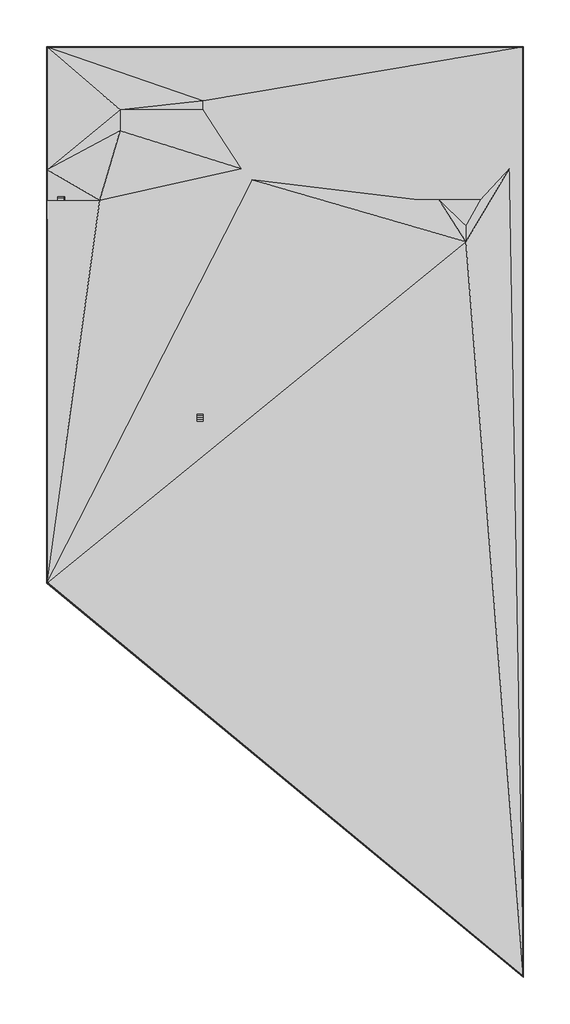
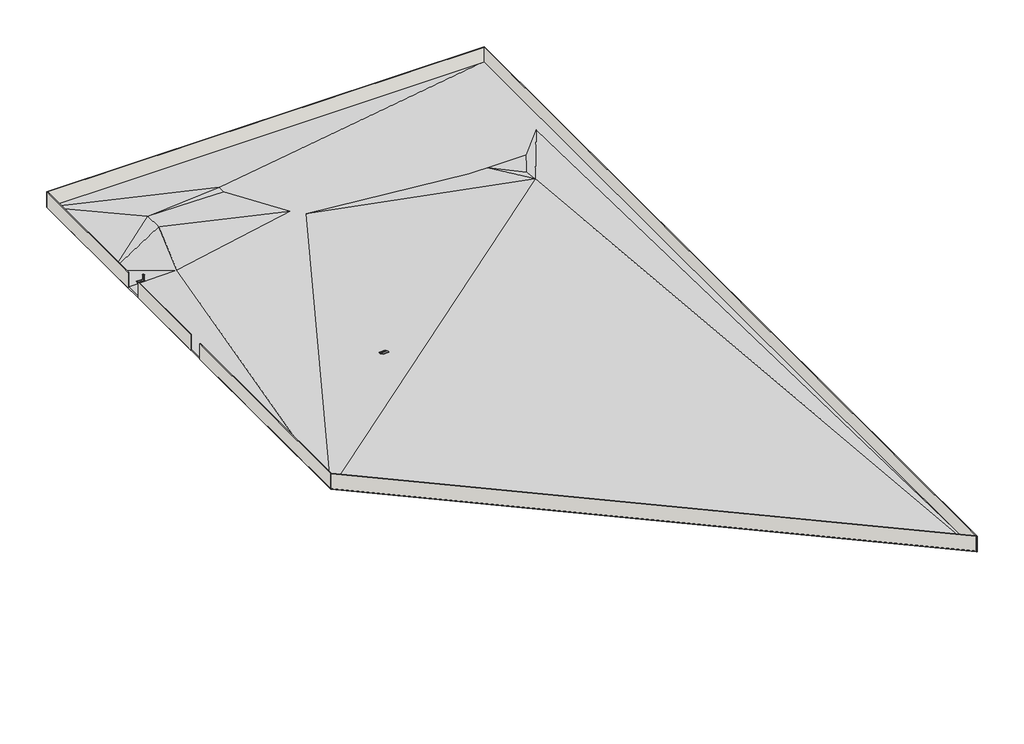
# One storey: 6 walls, 2 stair flights, 1 proxy, 1 railing.
"""IFC4 building model written with IfcOpenShell, lengths in millimetres."""

from ifc_helpers import new_model, si_unit, frame, origin, place, context, project, spatial, polyline, circle_curve, ellipse_curve, outline, extrude, faceted_brep, triangles, element, save
from ifc_brep_helpers import plane_surface, cylinder_surface, advanced_brep

model = new_model("IFC4")

# Units and contexts
model_context = context("Model", 3, world=origin())
ifc_project = project(units=[si_unit("LENGTHUNIT", "METRE", prefix="MILLI")], contexts=[model_context])

# Site, building, storey
site = spatial("IfcSite", under=ifc_project)
building = spatial("IfcBuilding", under=site)
storey = spatial("IfcBuildingStorey", under=building, Name="Nível 3", Elevation=-205.0)

# Proxy
placement = place(None, origin())
element("IfcBuildingElementProxy", 1, Name="Building Element Proxy", at=placement, inside=storey, context=model_context, shape_type="Tessellation", body=[
    triangles([(-28148.4725464, 48450.3077637, -600.0000046), (52048.748584, 48450.3077637, -400.0000031), (52048.748584, -107873.2666992, -400.0000031), (-28148.4725464, -41620.3386108, -400.0000031), (-19198.5269806, 22650.3081482, -200.0000015), (-27998.4723999, 22650.3081482, -400.0000031), (-27998.525885, 27775.302301, -300.0000023), (-15773.5267365, 37900.302887, -200.0000015), (-15773.7209106, 34350.2753906, -100.0000008), (44813.7994995, 22763.0361511, -400.0000031), (41301.5301636, 26275.3078125, -400.0000031), (37801.5275208, 22775.3098206, -400.0000031), (34301.5295288, 22775.3098206, -400.0000031), (30940.7090881, 26136.1279358, -400.0000031), (6440.7091919, 26136.1279358, -400.0000031), (4601.466806, 27975.3086975, -400.0000031), (49646.9556519, 27975.3086975, -400.0000031), (49646.9556519, 39375.3082031, -400.0000031), (-1814.1494408, 39375.3082031, -400.0000031), (-1814.1494408, 37900.302887, -400.0000031), (42376.5296631, 18386.128894, -200.0000015), (42376.4040894, 15716.1279144, 100.0000008)], [[1, 6, 7], [6, 1, 4], [7, 5, 9], [5, 6, 4], [15, 5, 4], [5, 7, 6], [4, 22, 15], [16, 5, 15], [7, 8, 1], [8, 7, 9], [8, 9, 20], [1, 8, 19], [19, 20, 16], [20, 19, 8], [16, 20, 9], [14, 19, 16], [9, 5, 16], [1, 19, 2], [16, 15, 14], [12, 13, 22], [13, 15, 22], [22, 10, 21], [17, 10, 22], [17, 22, 3], [12, 22, 21], [14, 15, 13], [12, 21, 10], [14, 12, 11], [12, 14, 13], [12, 10, 11], [14, 11, 18], [17, 2, 18], [2, 17, 3], [18, 2, 14], [17, 18, 11], [10, 17, 11], [14, 2, 19], [4, 3, 22]], closed=False),
])

# Railing
element("IfcRailing", 2, ObjectType="900 mm Tubulação", at=placement, inside=storey, context=model_context, shape_type="AdvancedBrep", body=[
    advanced_brep(
    [(-25093.1268603, 23266.1862478, 611.1815174), (-25123.1268603, 23266.1862478, 611.1815174), (-25153.1268603, 23266.1862478, 611.1815174), (-25133.1268603, 23266.1862478, 633.3333333), (-25113.1268603, 23266.1862478, 633.3333333), (-25093.1268603, 22706.1862478, 877.8481841), (-25113.1268603, 22706.1862478, 900.0), (-25133.1268603, 22706.1862478, 900.0), (-25153.1268603, 22706.1862478, 877.8481841), (-25123.1268603, 22706.1862478, 877.8481841)],
    [
        (0, 1),
        (1, 2),
        (2, 3, ellipse_curve(frame((-25133.1268603, 23266.1862478, 611.1815174), z_axis=(0.0, 1.0, 0.0), x_axis=(0.0, 0.0, -0.9999999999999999)), 22.1518159, 20.0)),
        (3, 4),
        (4, 0, ellipse_curve(frame((-25113.1268603, 23266.1862478, 611.1815174), z_axis=(0.0, 1.0, 0.0), x_axis=(0.0, 0.0, -0.9999999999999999)), 22.1518159, 20.0)),
        (5, 6, ellipse_curve(frame((-25113.1268603, 22706.1862478, 877.8481841), z_axis=(0.0, -1.0, 0.0), x_axis=(0.0, 0.0, -0.9999999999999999)), 22.1518159, 20.0)),
        (6, 7),
        (7, 8, ellipse_curve(frame((-25133.1268603, 22706.1862478, 877.8481841), z_axis=(0.0, -1.0, 0.0), x_axis=(0.0, 0.0, -0.9999999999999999)), 22.1518159, 20.0)),
        (8, 9),
        (9, 5),
        (0, 5),
        (9, 1),
        (8, 2),
        (7, 3),
        (6, 4),
    ],
    [
        plane_surface(frame((-25123.1268603, 23266.1862478, 633.3333333), z_axis=(0.0, 1.0, 0.0), x_axis=(0.0, 0.0, -1.0))),
        plane_surface(frame((-25123.1268603, 22706.1862478, 900.0), z_axis=(0.0, -1.0, 0.0), x_axis=(0.0, 0.0, -1.0))),
        plane_surface(frame((-25093.1268603, 23266.1862478, 611.1815174), z_axis=(0.0, -0.42993358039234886, -0.9028605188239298), x_axis=(0.0, -0.9028605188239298, 0.42993358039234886))),
        plane_surface(frame((-25123.1268603, 23266.1862478, 611.1815174), z_axis=(0.0, -0.42993358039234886, -0.9028605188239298), x_axis=(0.0, -0.9028605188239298, 0.42993358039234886))),
        cylinder_surface(frame((-25133.1268603, 23257.5875762, 615.276123), z_axis=(0.0, 0.9028605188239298, -0.4299335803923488), x_axis=(1.0, 0.0, 0.0)), 20.0),
        plane_surface(frame((-25133.1268603, 23266.1862478, 633.3333333), z_axis=(0.0, 0.42993358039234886, 0.9028605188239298), x_axis=(0.0, -0.9028605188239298, 0.42993358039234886))),
        cylinder_surface(frame((-25113.1268603, 23257.5875762, 615.276123), z_axis=(0.0, 0.9028605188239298, -0.4299335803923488), x_axis=(1.0, 0.0, 0.0)), 20.0),
    ],
    [
        (0, [[1, 2, 3, 4, 5]]),
        (1, [[6, 7, 8, 9, 10]]),
        (2, [[-1, 11, -10, 12]]),
        (3, [[-2, -12, -9, 13]]),
        (4, [[-3, -13, -8, 14]]),
        (5, [[-4, -14, -7, 15]]),
        (6, [[-5, -15, -6, -11]]),
    ],
),
    advanced_brep(
    [(-25108.1268603, 23266.1862478, 616.7194714), (-25138.1268603, 23266.1862478, 616.7194714), (-25108.1268603, 22706.1862478, 883.3861381), (-25138.1268603, 22706.1862478, 883.3861381)],
    [
        (0, 1, ellipse_curve(frame((-25123.1268603, 23266.1862478, 616.7194714), z_axis=(0.0, 1.0, 0.0), x_axis=(0.0, 0.0, -0.9999999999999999)), 16.6138619, 15.0)),
        (1, 0, ellipse_curve(frame((-25123.1268603, 23266.1862478, 616.7194714), z_axis=(0.0, 1.0, 0.0), x_axis=(0.0, 0.0, -0.9999999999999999)), 16.6138619, 15.0)),
        (2, 3, ellipse_curve(frame((-25123.1268603, 22706.1862478, 883.3861381), z_axis=(0.0, -1.0, 0.0), x_axis=(0.0, 0.0, -0.9999999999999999)), 16.6138619, 15.0)),
        (3, 2, ellipse_curve(frame((-25123.1268603, 22706.1862478, 883.3861381), z_axis=(0.0, -1.0, 0.0), x_axis=(0.0, 0.0, -0.9999999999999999)), 16.6138619, 15.0)),
        (0, 2),
        (3, 1),
    ],
    [
        plane_surface(frame((-25123.1268603, 23266.1862478, 633.3333333), z_axis=(0.0, 1.0, 0.0), x_axis=(0.0, 0.0, -1.0))),
        plane_surface(frame((-25123.1268603, 22706.1862478, 900.0), z_axis=(0.0, -1.0, 0.0), x_axis=(0.0, 0.0, -1.0))),
        cylinder_surface(frame((-25123.1268603, 23259.7372441, 619.7904256), z_axis=(0.0, 0.9028605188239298, -0.4299335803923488), x_axis=(-1.0, 0.0, 0.0)), 15.0),
    ],
    [
        (0, [[1, 2]]),
        (1, [[3, 4]]),
        (2, [[-1, 5, -4, 6]]),
        (2, [[-2, -6, -3, -5]]),
    ],
),
    advanced_brep(
    [(-25108.1268603, 23266.1862478, 166.7194714), (-25138.1268603, 23266.1862478, 166.7194714), (-25108.1268603, 22706.1862478, 433.3861381), (-25138.1268603, 22706.1862478, 433.3861381)],
    [
        (0, 1, ellipse_curve(frame((-25123.1268603, 23266.1862478, 166.7194714), z_axis=(0.0, 1.0, 0.0), x_axis=(0.0, 0.0, -0.9999999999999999)), 16.6138619, 15.0)),
        (1, 0, ellipse_curve(frame((-25123.1268603, 23266.1862478, 166.7194714), z_axis=(0.0, 1.0, 0.0), x_axis=(0.0, 0.0, -0.9999999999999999)), 16.6138619, 15.0)),
        (2, 3, ellipse_curve(frame((-25123.1268603, 22706.1862478, 433.3861381), z_axis=(0.0, -1.0, 0.0), x_axis=(0.0, 0.0, -0.9999999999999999)), 16.6138619, 15.0)),
        (3, 2, ellipse_curve(frame((-25123.1268603, 22706.1862478, 433.3861381), z_axis=(0.0, -1.0, 0.0), x_axis=(0.0, 0.0, -0.9999999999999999)), 16.6138619, 15.0)),
        (0, 2),
        (3, 1),
    ],
    [
        plane_surface(frame((-25123.1268603, 23266.1862478, 183.3333333), z_axis=(0.0, 1.0, 0.0), x_axis=(0.0, 0.0, -1.0))),
        plane_surface(frame((-25123.1268603, 22706.1862478, 450.0), z_axis=(0.0, -1.0, 0.0), x_axis=(0.0, 0.0, -1.0))),
        cylinder_surface(frame((-25123.1268603, 23259.7372441, 169.7904256), z_axis=(0.0, 0.9028605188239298, -0.4299335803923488), x_axis=(-1.0, 0.0, 0.0)), 15.0),
    ],
    [
        (0, [[1, 2]]),
        (1, [[3, 4]]),
        (2, [[-1, 5, -4, 6]]),
        (2, [[-2, -6, -3, -5]]),
    ],
),
    advanced_brep(
    [(-25135.6268603, 22718.6862478, 871.8958031), (-25135.6268603, 22718.6862478, -133.3333333), (-25110.6268603, 22718.6862478, -133.3333333), (-25110.6268603, 22718.6862478, 871.8958031)],
    [
        (0, 1),
        (1, 2, circle_curve(frame((-25123.1268603, 22718.6862478, -133.3333333), z_axis=(0.0, 0.0, 1.0), x_axis=(1.0, 0.0, 0.0)), 12.5)),
        (2, 3),
        (3, 0, ellipse_curve(frame((-25123.1268603, 22718.6862478, 871.8958031), z_axis=(0.0, -0.42993358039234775, -0.9028605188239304), x_axis=(0.0, -0.9028605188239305, 0.42993358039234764)), 13.8448849, 12.5)),
        (0, 3, ellipse_curve(frame((-25123.1268603, 22718.6862478, 871.8958031), z_axis=(0.0, -0.42993358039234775, -0.9028605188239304), x_axis=(0.0, -0.9028605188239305, 0.42993358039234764)), 13.8448849, 12.5)),
        (2, 1, circle_curve(frame((-25123.1268603, 22718.6862478, -133.3333333), z_axis=(0.0, 0.0, 1.0), x_axis=(1.0, 0.0, 0.0)), 12.5)),
    ],
    [
        cylinder_surface(frame((-25123.1268603, 22718.6862478, -233.3333333), z_axis=(0.0, 0.0, 1.0), x_axis=(1.0, 0.0, 0.0)), 12.5),
        plane_surface(frame((-25098.1268603, 22693.6862478, 883.800565), z_axis=(0.0, 0.42993358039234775, 0.9028605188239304), x_axis=(-1.0, 0.0, 0.0))),
        plane_surface(frame((-25098.1268603, 22743.6862478, -133.3333333), z_axis=(0.0, 0.0, -1.0), x_axis=(-1.0, 0.0, 0.0))),
    ],
    [
        (0, [[1, 2, 3, 4]]),
        (0, [[-1, 5, -3, 6]]),
        (1, [[-4, -5]]),
        (2, [[-2, -6]]),
    ],
),
    advanced_brep(
    [(-25135.6268603, 23253.6862478, 617.1338984), (-25135.6268603, 23253.6862478, -266.6666667), (-25110.6268603, 23253.6862478, -266.6666667), (-25110.6268603, 23253.6862478, 617.1338984)],
    [
        (0, 1),
        (1, 2, circle_curve(frame((-25123.1268603, 23253.6862478, -266.6666667), z_axis=(0.0, 0.0, 1.0), x_axis=(1.0, 0.0, 0.0)), 12.5)),
        (2, 3),
        (3, 0, ellipse_curve(frame((-25123.1268603, 23253.6862478, 617.1338984), z_axis=(0.0, -0.42993358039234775, -0.9028605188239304), x_axis=(0.0, -0.9028605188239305, 0.42993358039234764)), 13.8448849, 12.5)),
        (0, 3, ellipse_curve(frame((-25123.1268603, 23253.6862478, 617.1338984), z_axis=(0.0, -0.42993358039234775, -0.9028605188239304), x_axis=(0.0, -0.9028605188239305, 0.42993358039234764)), 13.8448849, 12.5)),
        (2, 1, circle_curve(frame((-25123.1268603, 23253.6862478, -266.6666667), z_axis=(0.0, 0.0, 1.0), x_axis=(1.0, 0.0, 0.0)), 12.5)),
    ],
    [
        cylinder_surface(frame((-25123.1268603, 23253.6862478, -366.6666667), z_axis=(0.0, 0.0, 1.0), x_axis=(1.0, 0.0, 0.0)), 12.5),
        plane_surface(frame((-25098.1268603, 23228.6862478, 629.0386603), z_axis=(0.0, 0.42993358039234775, 0.9028605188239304), x_axis=(-1.0, 0.0, 0.0))),
        plane_surface(frame((-25098.1268603, 23278.6862478, -266.6666667), z_axis=(0.0, 0.0, -1.0), x_axis=(-1.0, 0.0, 0.0))),
    ],
    [
        (0, [[1, 2, 3, 4]]),
        (0, [[-1, 5, -3, 6]]),
        (1, [[-4, -5]]),
        (2, [[-2, -6]]),
    ],
),
])

# Stair flights
element("IfcStairFlight", 3, ObjectType="Concreto", at=placement, inside=storey, context=model_context, shape_type="Brep", body=[
    faceted_brep([(-1840.0088254, -13548.8137522, -54.0), (-1840.0088254, -13248.8137522, -54.0), (-2840.0088254, -13248.8137522, -54.0), (-2840.0088254, -13548.8137522, -54.0), (-1840.0088254, -13548.8137522, -165.9528671), (-1840.0088254, -13471.2366669, -205.0), (-1840.0088254, -13248.8137522, -205.0), (-2840.0088254, -13248.8137522, -205.0), (-2840.0088254, -13471.2366669, -205.0), (-2840.0088254, -13548.8137522, -165.9528671), (-1840.0088254, -13848.8137522, -14.9528671), (-1840.0088254, -14148.8137522, 136.0471329), (-1840.0088254, -14448.8137522, 287.0471329), (-2840.0088254, -14448.8137522, 287.0471329), (-2840.0088254, -14148.8137522, 136.0471329), (-2840.0088254, -13848.8137522, -14.9528671), (-1840.0088254, -13848.8137522, 97.0), (-1840.0088254, -13548.8137522, 97.0), (-2840.0088254, -13548.8137522, 97.0), (-2840.0088254, -13848.8137522, 97.0), (-1840.0088254, -14148.8137522, 248.0), (-1840.0088254, -13848.8137522, 248.0), (-2840.0088254, -13848.8137522, 248.0), (-2840.0088254, -14148.8137522, 248.0), (-1840.0088254, -14448.8137522, 399.0), (-1840.0088254, -14148.8137522, 399.0), (-2840.0088254, -14148.8137522, 399.0), (-2840.0088254, -14448.8137522, 399.0)], [[[0, 1, 2, 3]], [[1, 0, 4, 5, 6]], [[2, 1, 6, 7]], [[3, 2, 7, 8, 9]], [[7, 6, 5, 8]], [[8, 5, 4, 10, 11, 12, 13, 14, 15, 9]], [[16, 17, 18, 19]], [[17, 16, 10, 4, 0]], [[0, 3, 18, 17]], [[19, 18, 3, 9, 15]], [[20, 21, 22, 23]], [[21, 20, 11, 10, 16]], [[16, 19, 22, 21]], [[23, 22, 19, 15, 14]], [[24, 25, 26, 27]], [[25, 24, 12, 11, 20]], [[20, 23, 26, 25]], [[27, 26, 23, 14, 13]], [[24, 27, 13, 12]]]),
])
element("IfcStairFlight", 4, ObjectType="Concreto", at=placement, inside=storey, context=model_context, shape_type="Brep", body=[
    faceted_brep([(-25098.5268603, 22986.1862478, -266.6666667), (-25098.5268603, 23266.1862478, -266.6666667), (-26298.5268603, 23266.1862478, -266.6666667), (-26298.5268603, 22986.1862478, -266.6666667), (-25098.5268603, 22986.1862478, -377.4257462), (-25098.5268603, 23033.5921808, -400.0), (-25098.5268603, 23266.1862478, -400.0), (-26298.5268603, 23266.1862478, -400.0), (-26298.5268603, 23033.5921808, -400.0), (-26298.5268603, 22986.1862478, -377.4257462), (-25098.5268603, 22706.1862478, -133.3333333), (-25098.5268603, 22986.1862478, -133.3333333), (-26298.5268603, 22986.1862478, -133.3333333), (-26298.5268603, 22706.1862478, -133.3333333), (-25098.5268603, 22706.1862478, -244.0924129), (-26298.5268603, 22706.1862478, -244.0924129)], [[[0, 1, 2, 3]], [[1, 0, 4, 5, 6]], [[2, 1, 6, 7]], [[3, 2, 7, 8, 9]], [[10, 11, 12, 13]], [[11, 10, 14, 4, 0]], [[0, 3, 12, 11]], [[13, 12, 3, 9, 15]], [[10, 13, 15, 14]], [[7, 6, 5, 8]], [[8, 5, 4, 14, 15, 9]]]),
])

# Walls
element("IfcWall", 5, ObjectType="muro, genérico", at=placement, inside=storey, context=model_context, shape_type="Brep", body=[
    faceted_brep([(-28148.5268603, 48356.1797638, -555.0), (-27998.5268603, 48356.1797638, -555.0), (51898.695362, 48356.1797638, -555.0), (52048.695362, 48356.1797638, -555.0), (52048.695362, 48356.1797638, 2445.0), (51898.695362, 48356.1797638, 2445.0), (-27998.5268603, 48356.1797638, 2445.0), (-28148.5268603, 48356.1797638, 2445.0), (-28148.5268603, 48506.1797638, -555.0), (-28148.5268603, 48506.1797638, 2445.0), (52048.695362, 48506.1797638, 2445.0), (52048.695362, 48506.1797638, -555.0)], [[[0, 1, 2, 3, 4, 5, 6, 7]], [[8, 9, 10, 11]], [[3, 2, 1, 0, 8, 11]], [[7, 6, 5, 4, 10, 9]], [[4, 3, 11, 10]], [[0, 7, 9, 8]]]),
])
element("IfcWall", 6, ObjectType="muro, genérico", at=placement, inside=storey, context=model_context, shape_type="Brep", body=[
    faceted_brep([(51898.695362, 48356.1797638, -555.0), (51898.695362, -107554.790324, -555.0), (51898.695362, -107749.3561396, -555.0), (51898.695362, -107749.3561396, 2445.0), (51898.695362, -107554.790324, 2445.0), (51898.695362, 48356.1797638, 2445.0), (52048.695362, 48356.1797638, -555.0), (52048.695362, 48356.1797638, 2445.0), (52048.695362, -107873.2748896, 2445.0), (52048.695362, -107873.2748896, -555.0)], [[[0, 1, 2, 3, 4, 5]], [[6, 7, 8, 9]], [[2, 1, 0, 6, 9]], [[5, 4, 3, 8, 7]], [[0, 5, 7, 6]], [[3, 2, 9, 8]]]),
])
element("IfcWall", 7, ObjectType="muro, genérico", at=placement, inside=storey, context=model_context, shape_type="Brep", body=[
    faceted_brep([(51898.695362, -107554.790324, -555.0), (-27998.5268603, -41549.6976157, -555.0), (-28148.5268603, -41425.7788657, -555.0), (-28148.5268603, -41425.7788657, 2445.0), (-27998.5268603, -41549.6976157, 2445.0), (51898.695362, -107554.790324, 2445.0), (51898.695362, -107749.3561396, -555.0), (51898.695362, -107749.3561396, 2445.0), (-28148.5268603, -41620.3446813, 2445.0), (-28148.5268603, -41620.3446813, -555.0)], [[[0, 1, 2, 3, 4, 5]], [[6, 7, 8, 9]], [[2, 1, 0, 6, 9]], [[5, 4, 3, 8, 7]], [[0, 5, 7, 6]], [[3, 2, 9, 8]]]),
])
element("IfcWall", 8, ObjectType="muro, genérico", at=placement, inside=storey, context=model_context, shape_type="SweptSolid", body=[
    extrude(outline(polyline([(-27998.5268603, -160.0211485), (-27998.5268603, -41549.6976157), (-28148.5268603, -41425.7788657), (-28148.5268603, -160.0211485), (-27998.5268603, -160.0211485)])), frame((0.0, 0.0, -555.0), z_axis=(0.0, 0.0, 1.0), x_axis=(1.0, 0.0, 0.0)), (0.0, 0.0, 1.0), 3000.0),
])
element("IfcWall", 9, ObjectType="muro, genérico", at=placement, inside=storey, context=model_context, shape_type="SweptSolid", body=[
    extrude(outline(polyline([(-27998.5268603, 48356.1797638), (-27998.5268603, 22626.1797638), (-28148.5268603, 22626.1797638), (-28148.5268603, 48356.1797638), (-27998.5268603, 48356.1797638)])), frame((0.0, 0.0, -555.0), z_axis=(0.0, 0.0, 1.0), x_axis=(1.0, 0.0, 0.0)), (0.0, 0.0, 1.0), 3000.0),
])
element("IfcWall", 10, ObjectType="muro, genérico", at=placement, inside=storey, context=model_context, shape_type="SweptSolid", body=[
    extrude(outline(polyline([(-27998.5268603, 19479.9788515), (-27998.5268603, 2839.9788515), (-28148.5268603, 2839.9788515), (-28148.5268603, 19479.9788515), (-27998.5268603, 19479.9788515)])), frame((0.0, 0.0, -555.0), z_axis=(0.0, 0.0, 1.0), x_axis=(1.0, 0.0, 0.0)), (0.0, 0.0, 1.0), 3000.0),
])

save(model, "model.ifc")
